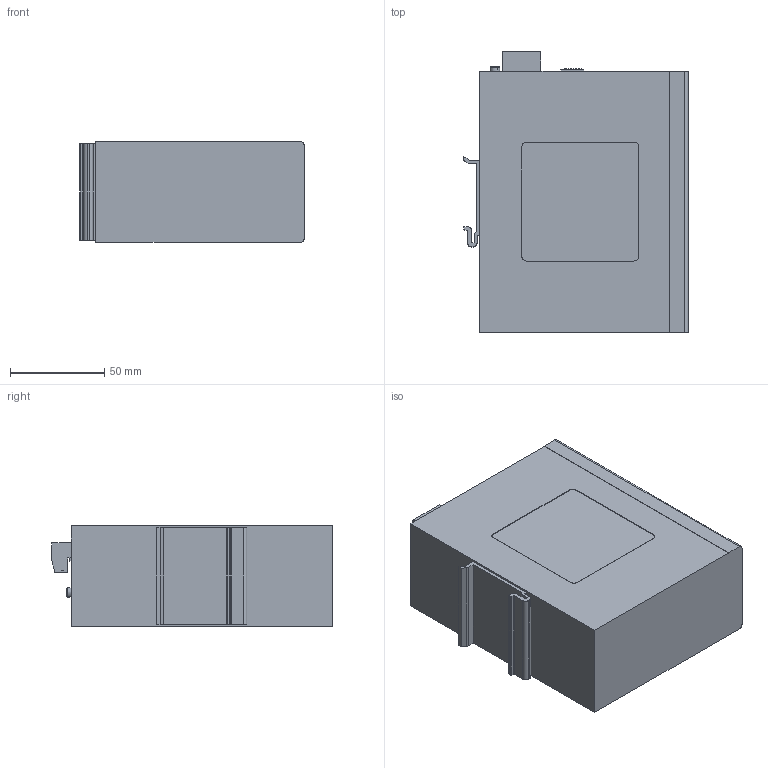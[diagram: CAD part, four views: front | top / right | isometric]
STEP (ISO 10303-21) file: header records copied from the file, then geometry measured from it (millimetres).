
FILE_DESCRIPTION(/* description */ (''),/* implementation_level */ '2;1');
FILE_NAME(/* name */ '00S116 FAS-MS116T.stp',/* time_stamp */ '2023-08-03T09:38:08+08:00',/* author */ (''),/* organization */ (''),/* preprocessor_version */ 'ST-DEVELOPER v16.7',/* originating_system */ 'SIEMENS PLM Software NX 12.0',/* authorisation */ '');
FILE_SCHEMA (('AUTOMOTIVE_DESIGN { 1 0 10303 214 3 1 1 1 }'));
Products named in the file (1): FAS-MS116T_step
Bounding box: 119 x 148.8 x 53.5 mm (x, y, z)
Volume: 808459.3 mm3; surface area: 72364.5 mm2
Topology: 1 solids, 1 shells, 2351 faces, 6075 edges, 3933 vertices
Faces by surface type: plane 1863, extrusion 230, cylinder 178, bspline 44, torus 20, cone 16
Full cylindrical faces by diameter (mm): 3 x4, 4.8 x1, 5 x1
Entity records: 82840 total; most frequent: CARTESIAN_POINT 26598, ORIENTED_EDGE 12086, DIRECTION 10257, EDGE_CURVE 6043, VECTOR 5309, LINE 5079, VERTEX_POINT 3928, EDGE_LOOP 2585
